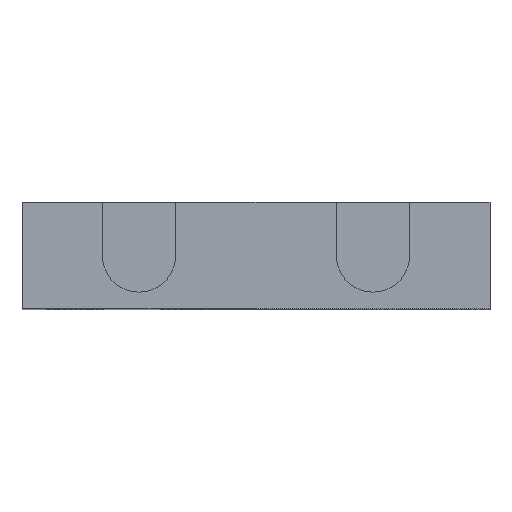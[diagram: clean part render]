
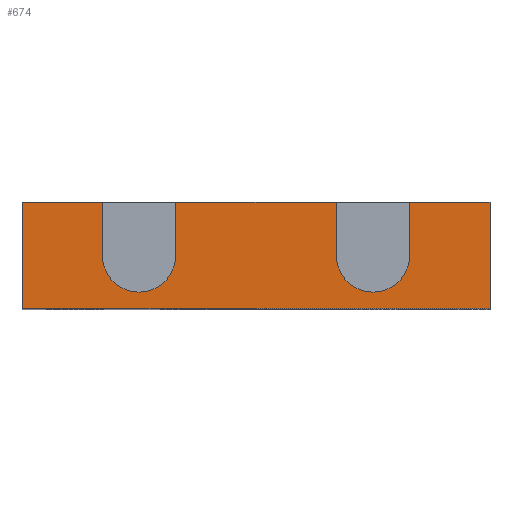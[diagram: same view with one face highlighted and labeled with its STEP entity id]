
A CAD part, top view. The second image highlights one B-rep face of the part: STEP entity #674.
In plain terms, the highlighted planar face has unit normal (0, 0, 1).
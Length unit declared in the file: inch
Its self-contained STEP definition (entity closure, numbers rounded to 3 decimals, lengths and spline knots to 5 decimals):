
#6 = LINE ( 'NONE', #328, #225 ) ;
#31 = CARTESIAN_POINT ( 'NONE',  ( 0., 0., 0. ) ) ;
#39 = CARTESIAN_POINT ( 'NONE',  ( -31.044, 0., 0. ) ) ;
#40 = DIRECTION ( 'NONE',  ( 0., 1., 0. ) ) ;
#47 = DIRECTION ( 'NONE',  ( 0., 1., 0. ) ) ;
#51 = EDGE_CURVE ( 'NONE', #285, #1145, #1092, .T. ) ;
#54 = LINE ( 'NONE', #1073, #1309 ) ;
#55 = VERTEX_POINT ( 'NONE', #978 ) ;
#58 = VECTOR ( 'NONE', #1196, 39.37008 ) ;
#69 = ORIENTED_EDGE ( 'NONE', *, *, #156, .F. ) ;
#79 = VERTEX_POINT ( 'NONE', #749 ) ;
#103 = CARTESIAN_POINT ( 'NONE',  ( -32.11071, 22.09023, 0. ) ) ;
#104 = LINE ( 'NONE', #1418, #1094 ) ;
#118 = CARTESIAN_POINT ( 'NONE',  ( -31.379, 21.84723, 0. ) ) ;
#137 = ORIENTED_EDGE ( 'NONE', *, *, #915, .T. ) ;
#138 = LINE ( 'NONE', #475, #614 ) ;
#151 = CARTESIAN_POINT ( 'NONE',  ( -30.67815, 21.60423, 0. ) ) ;
#156 = EDGE_CURVE ( 'NONE', #163, #79, #309, .T. ) ;
#163 = VERTEX_POINT ( 'NONE', #103 ) ;
#225 = VECTOR ( 'NONE', #1217, 39.37008 ) ;
#227 = DIRECTION ( 'NONE',  ( 1., 0., 0. ) ) ;
#243 = EDGE_CURVE ( 'NONE', #560, #1230, #480, .T. ) ;
#248 = DIRECTION ( 'NONE',  ( 1., 0., 0. ) ) ;
#257 = DIRECTION ( 'NONE',  ( 0., -1., 0. ) ) ;
#260 = VERTEX_POINT ( 'NONE', #692 ) ;
#275 = DIRECTION ( 'NONE',  ( -1., 0., 0. ) ) ;
#285 = VERTEX_POINT ( 'NONE', #885 ) ;
#309 = LINE ( 'NONE', #439, #58 ) ;
#328 = CARTESIAN_POINT ( 'NONE',  ( -35.40498, 22.09023, 0. ) ) ;
#367 = DIRECTION ( 'NONE',  ( 0., 1., 0. ) ) ;
#392 = LINE ( 'NONE', #710, #1192 ) ;
#407 = ORIENTED_EDGE ( 'NONE', *, *, #499, .F. ) ;
#439 = CARTESIAN_POINT ( 'NONE',  ( -35.40498, 22.09023, 0. ) ) ;
#443 = CARTESIAN_POINT ( 'NONE',  ( -32.27821, 21.84723, 0. ) ) ;
#463 = CARTESIAN_POINT ( 'NONE',  ( -31.2115, 21.84723, 0. ) ) ;
#470 = VERTEX_POINT ( 'NONE', #541 ) ;
#475 = CARTESIAN_POINT ( 'NONE',  ( -31.379, 0., 0. ) ) ;
#478 = EDGE_CURVE ( 'NONE', #260, #470, #1024, .T. ) ;
#480 = LINE ( 'NONE', #39, #1188 ) ;
#495 = LINE ( 'NONE', #914, #594 ) ;
#498 = ORIENTED_EDGE ( 'NONE', *, *, #243, .F. ) ;
#499 = EDGE_CURVE ( 'NONE', #1145, #55, #6, .T. ) ;
#520 = VERTEX_POINT ( 'NONE', #118 ) ;
#541 = CARTESIAN_POINT ( 'NONE',  ( -32.11071, 21.84723, 0. ) ) ;
#559 = CARTESIAN_POINT ( 'NONE',  ( -31.044, 22.09023, 0. ) ) ;
#560 = VERTEX_POINT ( 'NONE', #660 ) ;
#569 = EDGE_CURVE ( 'NONE', #1230, #734, #104, .T. ) ;
#594 = VECTOR ( 'NONE', #275, 39.37008 ) ;
#614 = VECTOR ( 'NONE', #367, 39.37008 ) ;
#646 = AXIS2_PLACEMENT_3D ( 'NONE', #463, #1089, #1096 ) ;
#653 = DIRECTION ( 'NONE',  ( 0., 0., 1. ) ) ;
#660 = CARTESIAN_POINT ( 'NONE',  ( -31.044, 21.84723, 0. ) ) ;
#674 = ADVANCED_FACE ( 'NONE', ( #677 ), #1121, .T. ) ;
#677 = FACE_OUTER_BOUND ( 'NONE', #1290, .T. ) ;
#692 = CARTESIAN_POINT ( 'NONE',  ( -32.44571, 21.84723, 0. ) ) ;
#710 = CARTESIAN_POINT ( 'NONE',  ( -30.67815, 0., 0. ) ) ;
#721 = ORIENTED_EDGE ( 'NONE', *, *, #846, .T. ) ;
#734 = VERTEX_POINT ( 'NONE', #797 ) ;
#749 = CARTESIAN_POINT ( 'NONE',  ( -31.379, 22.09023, 0. ) ) ;
#790 = DIRECTION ( 'NONE',  ( 0., 0., 1. ) ) ;
#797 = CARTESIAN_POINT ( 'NONE',  ( -30.67815, 22.09023, 0. ) ) ;
#828 = ORIENTED_EDGE ( 'NONE', *, *, #1372, .F. ) ;
#846 = EDGE_CURVE ( 'NONE', #260, #55, #54, .T. ) ;
#866 = ORIENTED_EDGE ( 'NONE', *, *, #569, .F. ) ;
#883 = ORIENTED_EDGE ( 'NONE', *, *, #478, .F. ) ;
#885 = CARTESIAN_POINT ( 'NONE',  ( -32.81156, 21.60423, 0. ) ) ;
#901 = ORIENTED_EDGE ( 'NONE', *, *, #1032, .F. ) ;
#914 = CARTESIAN_POINT ( 'NONE',  ( 0., 21.60423, 0. ) ) ;
#915 = EDGE_CURVE ( 'NONE', #520, #79, #138, .T. ) ;
#950 = DIRECTION ( 'NONE',  ( 0., 1., 0. ) ) ;
#953 = CARTESIAN_POINT ( 'NONE',  ( -32.81156, 22.09023, 0. ) ) ;
#978 = CARTESIAN_POINT ( 'NONE',  ( -32.44571, 22.09023, 0. ) ) ;
#979 = VERTEX_POINT ( 'NONE', #151 ) ;
#988 = CIRCLE ( 'NONE', #646, 0.1675 ) ;
#997 = DIRECTION ( 'NONE',  ( 1., 0., 0. ) ) ;
#1024 = CIRCLE ( 'NONE', #1424, 0.1675 ) ;
#1032 = EDGE_CURVE ( 'NONE', #734, #979, #392, .T. ) ;
#1073 = CARTESIAN_POINT ( 'NONE',  ( -32.44571, 0., 0. ) ) ;
#1089 = DIRECTION ( 'NONE',  ( 0., 0., 1. ) ) ;
#1092 = LINE ( 'NONE', #1289, #1426 ) ;
#1094 = VECTOR ( 'NONE', #227, 39.37008 ) ;
#1096 = DIRECTION ( 'NONE',  ( 1., 0., 0. ) ) ;
#1119 = ORIENTED_EDGE ( 'NONE', *, *, #1379, .F. ) ;
#1121 = PLANE ( 'NONE',  #1341 ) ;
#1141 = VECTOR ( 'NONE', #40, 39.37008 ) ;
#1145 = VERTEX_POINT ( 'NONE', #953 ) ;
#1180 = DIRECTION ( 'NONE',  ( 0., 1., 0. ) ) ;
#1188 = VECTOR ( 'NONE', #47, 39.37008 ) ;
#1192 = VECTOR ( 'NONE', #257, 39.37008 ) ;
#1196 = DIRECTION ( 'NONE',  ( 1., 0., 0. ) ) ;
#1217 = DIRECTION ( 'NONE',  ( 1., 0., 0. ) ) ;
#1230 = VERTEX_POINT ( 'NONE', #559 ) ;
#1244 = CARTESIAN_POINT ( 'NONE',  ( -32.11071, 0., 0. ) ) ;
#1263 = EDGE_CURVE ( 'NONE', #520, #560, #988, .T. ) ;
#1272 = ORIENTED_EDGE ( 'NONE', *, *, #51, .F. ) ;
#1289 = CARTESIAN_POINT ( 'NONE',  ( -32.81156, 0., 0. ) ) ;
#1290 = EDGE_LOOP ( 'NONE', ( #883, #721, #407, #1272, #1119, #901, #866, #498, #1416, #137, #69, #828 ) ) ;
#1309 = VECTOR ( 'NONE', #950, 39.37008 ) ;
#1339 = LINE ( 'NONE', #1244, #1141 ) ;
#1341 = AXIS2_PLACEMENT_3D ( 'NONE', #31, #790, #248 ) ;
#1372 = EDGE_CURVE ( 'NONE', #470, #163, #1339, .T. ) ;
#1379 = EDGE_CURVE ( 'NONE', #979, #285, #495, .T. ) ;
#1416 = ORIENTED_EDGE ( 'NONE', *, *, #1263, .F. ) ;
#1418 = CARTESIAN_POINT ( 'NONE',  ( -35.40498, 22.09023, 0. ) ) ;
#1424 = AXIS2_PLACEMENT_3D ( 'NONE', #443, #653, #997 ) ;
#1426 = VECTOR ( 'NONE', #1180, 39.37008 ) ;
